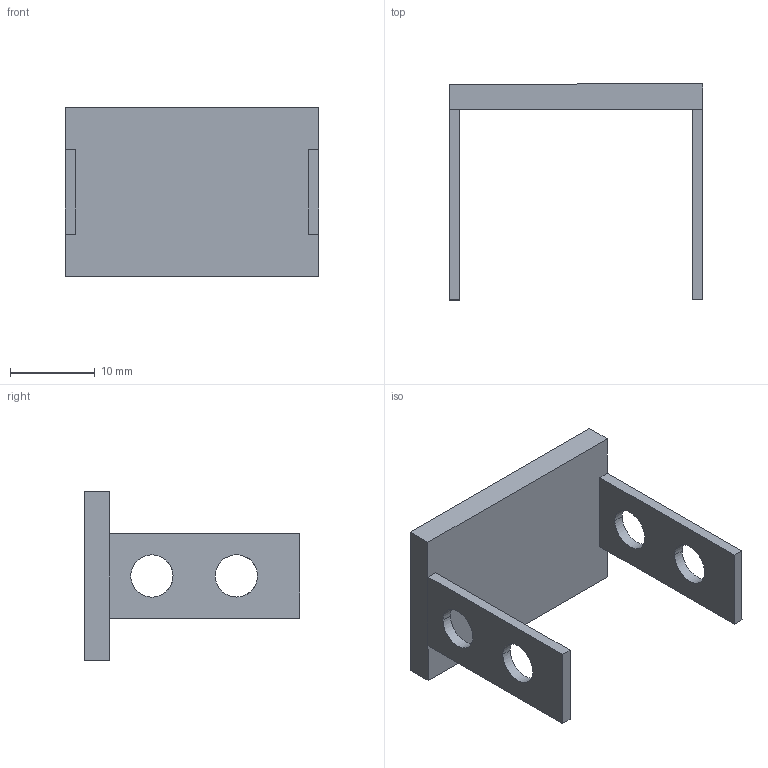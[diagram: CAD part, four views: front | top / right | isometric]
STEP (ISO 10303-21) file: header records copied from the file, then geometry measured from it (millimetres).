
FILE_DESCRIPTION (( 'STEP AP214' ), '1' );
FILE_NAME ('Top Part.STEP', '2021-10-04T05:58:54', ( '' ), ( '' ), 'SwSTEP 2.0', 'SolidWorks 2021', '' );
FILE_SCHEMA (( 'AUTOMOTIVE_DESIGN' ));
Length unit declared in the file: millimetre
Products named in the file (1): Top Part
Bounding box: 30.01 x 25.52 x 20 mm (x, y, z)
Volume: 2264.3 mm3; surface area: 2434 mm2
Topology: 1 solids, 1 shells, 24 faces, 62 edges, 40 vertices
Faces by surface type: plane 16, cylinder 8
Entity records: 780 total; most frequent: DIRECTION 128, CARTESIAN_POINT 127, ORIENTED_EDGE 124, EDGE_CURVE 62, VECTOR 46, LINE 46, AXIS2_PLACEMENT_3D 41, VERTEX_POINT 40
